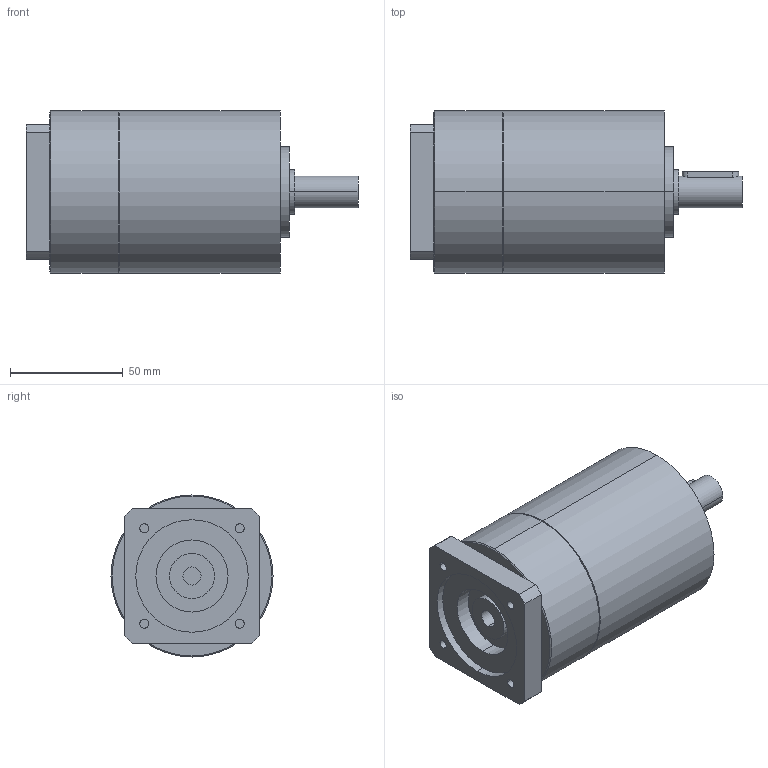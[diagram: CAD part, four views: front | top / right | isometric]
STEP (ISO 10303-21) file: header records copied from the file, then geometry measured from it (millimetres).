
FILE_DESCRIPTION(('CoCreate Modeling STEP Export'),'2;1');
FILE_NAME('GPT75_ig-9-12-16-20-25-28-35-40-50-70-100_14_B14T_8_P18.stp','2014-08-27T13:24:03',(''),(''),'CoCreate Modeling STEP processor for AP214 (Solid Model)','CoCreate Modeling 16.00C 25-Feb-2009 (C) Parametric Technology GmbH','');
FILE_SCHEMA(('AUTOMOTIVE_DESIGN { 1 0 10303 214 1 1 1 1 }'));
Length unit declared in the file: millimetre
Products named in the file (2): GPT75_ig-9-12-16-20-25-28-35-40-50-70-100_14_B14T_8_P18
Assembly tree (1 placements, depth 2):
  GPT75_ig-9-12-16-20-25-28-35-40-50-70-100_14_B14T_8_P18
    GPT75_ig-9-12-16-20-25-28-35-40-50-70-100_14_B14T_8_P18
Bounding box: 147.5 x 72 x 72 mm (x, y, z)
Volume: 450639.5 mm3; surface area: 39862.3 mm2
Topology: 1 solids, 1 shells, 80 faces, 182 edges, 121 vertices
Faces by surface type: cylinder 42, plane 34, cone 4
Entity records: 2269 total; most frequent: CARTESIAN_POINT 677, ORIENTED_EDGE 364, DIRECTION 268, EDGE_CURVE 182, VERTEX_POINT 121, AXIS2_PLACEMENT_3D 100, EDGE_LOOP 97, FACE_OUTER_BOUND 80
